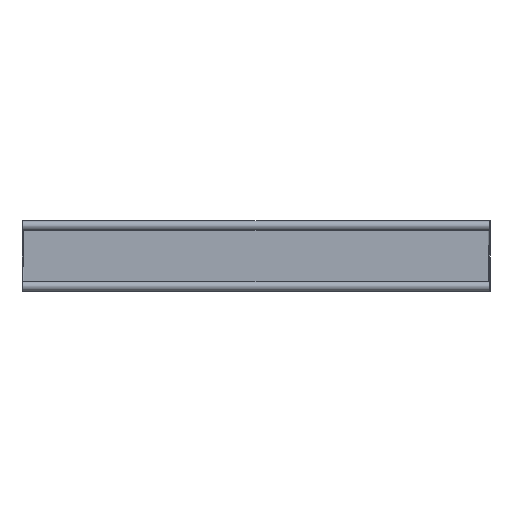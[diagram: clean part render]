
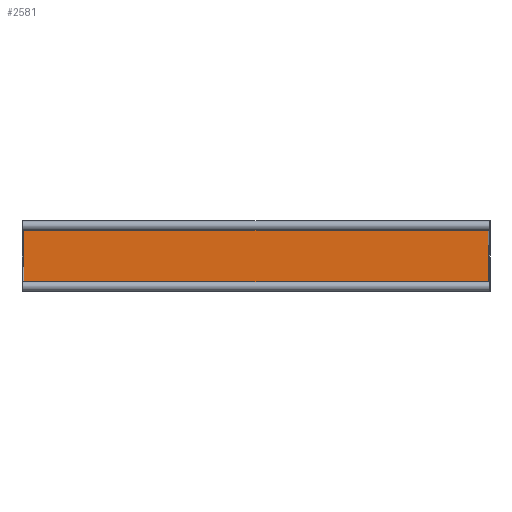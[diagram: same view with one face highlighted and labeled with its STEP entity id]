
A CAD part, front view. The second image highlights one B-rep face of the part: STEP entity #2581.
In plain terms, the highlighted planar face has unit normal (0, -1, 0).
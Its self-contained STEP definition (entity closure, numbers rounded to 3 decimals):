
#56 = AXIS2_PLACEMENT_3D ( 'NONE', #1936, #1193, #8037 ) ;
#336 = EDGE_CURVE ( 'NONE', #877, #8796, #7233, .T. ) ;
#529 = VECTOR ( 'NONE', #5909, 1000. ) ;
#877 = VERTEX_POINT ( 'NONE', #5682 ) ;
#878 = VERTEX_POINT ( 'NONE', #7255 ) ;
#997 = AXIS2_PLACEMENT_3D ( 'NONE', #6462, #7825, #9489 ) ;
#1071 = VERTEX_POINT ( 'NONE', #9300 ) ;
#1134 = DIRECTION ( 'NONE',  ( 0., 0., 1. ) ) ;
#1193 = DIRECTION ( 'NONE',  ( 0., -1., 0. ) ) ;
#1578 = EDGE_CURVE ( 'NONE', #6545, #9532, #9647, .T. ) ;
#1850 = EDGE_CURVE ( 'NONE', #1071, #878, #4536, .T. ) ;
#1936 = CARTESIAN_POINT ( 'NONE',  ( 499., -2., -74. ) ) ;
#2157 = CARTESIAN_POINT ( 'NONE',  ( -496., -2., -74. ) ) ;
#2228 = CARTESIAN_POINT ( 'NONE',  ( 495., -2., 71. ) ) ;
#2473 = AXIS2_PLACEMENT_3D ( 'NONE', #3805, #5348, #7610 ) ;
#2478 = CARTESIAN_POINT ( 'NONE',  ( 496., -2., -74. ) ) ;
#2564 = EDGE_CURVE ( 'NONE', #878, #877, #4290, .T. ) ;
#2581 = ADVANCED_FACE ( 'NONE', ( #2747 ), #4995, .F. ) ;
#2747 = FACE_OUTER_BOUND ( 'NONE', #3176, .T. ) ;
#2841 = ORIENTED_EDGE ( 'NONE', *, *, #9707, .F. ) ;
#2868 = CARTESIAN_POINT ( 'NONE',  ( -495., -2., -71. ) ) ;
#2902 = ORIENTED_EDGE ( 'NONE', *, *, #1578, .F. ) ;
#3176 = EDGE_LOOP ( 'NONE', ( #2902, #5296, #7644, #8269, #9345, #7587, #2841, #9579 ) ) ;
#3246 = CARTESIAN_POINT ( 'NONE',  ( 496., -2., -70. ) ) ;
#3455 = DIRECTION ( 'NONE',  ( 0., -1., 0. ) ) ;
#3597 = DIRECTION ( 'NONE',  ( 1., 0., 0. ) ) ;
#3805 = CARTESIAN_POINT ( 'NONE',  ( 499., -2., 74. ) ) ;
#4290 = CIRCLE ( 'NONE', #5226, 5. ) ;
#4301 = DIRECTION ( 'NONE',  ( 0., -1., 0. ) ) ;
#4536 = LINE ( 'NONE', #2157, #529 ) ;
#4798 = VERTEX_POINT ( 'NONE', #2868 ) ;
#4809 = CARTESIAN_POINT ( 'NONE',  ( -499., -2., 74. ) ) ;
#4903 = EDGE_CURVE ( 'NONE', #4798, #9532, #4960, .T. ) ;
#4960 = LINE ( 'NONE', #7830, #8863 ) ;
#4995 = PLANE ( 'NONE',  #997 ) ;
#5072 = DIRECTION ( 'NONE',  ( 0., 0., 1. ) ) ;
#5226 = AXIS2_PLACEMENT_3D ( 'NONE', #4809, #4301, #5537 ) ;
#5296 = ORIENTED_EDGE ( 'NONE', *, *, #8195, .T. ) ;
#5348 = DIRECTION ( 'NONE',  ( 0., -1., 0. ) ) ;
#5537 = DIRECTION ( 'NONE',  ( 0., 0., 1. ) ) ;
#5682 = CARTESIAN_POINT ( 'NONE',  ( -495., -2., 71. ) ) ;
#5760 = CARTESIAN_POINT ( 'NONE',  ( -499., -2., -74. ) ) ;
#5909 = DIRECTION ( 'NONE',  ( 0., 0., 1. ) ) ;
#6133 = CARTESIAN_POINT ( 'NONE',  ( 496., -2., 70. ) ) ;
#6462 = CARTESIAN_POINT ( 'NONE',  ( -499., -2., -74. ) ) ;
#6545 = VERTEX_POINT ( 'NONE', #3246 ) ;
#7233 = LINE ( 'NONE', #8842, #9632 ) ;
#7255 = CARTESIAN_POINT ( 'NONE',  ( -496., -2., 70. ) ) ;
#7300 = VECTOR ( 'NONE', #1134, 1000. ) ;
#7315 = AXIS2_PLACEMENT_3D ( 'NONE', #5760, #3455, #5072 ) ;
#7494 = CARTESIAN_POINT ( 'NONE',  ( 495., -2., -71. ) ) ;
#7587 = ORIENTED_EDGE ( 'NONE', *, *, #1850, .F. ) ;
#7610 = DIRECTION ( 'NONE',  ( 0., 0., 1. ) ) ;
#7644 = ORIENTED_EDGE ( 'NONE', *, *, #9178, .F. ) ;
#7825 = DIRECTION ( 'NONE',  ( 0., 1., 0. ) ) ;
#7830 = CARTESIAN_POINT ( 'NONE',  ( -499., -2., -71. ) ) ;
#7877 = LINE ( 'NONE', #2478, #7300 ) ;
#8037 = DIRECTION ( 'NONE',  ( 0., 0., 1. ) ) ;
#8195 = EDGE_CURVE ( 'NONE', #6545, #9152, #7877, .T. ) ;
#8269 = ORIENTED_EDGE ( 'NONE', *, *, #336, .F. ) ;
#8600 = CIRCLE ( 'NONE', #2473, 5. ) ;
#8772 = DIRECTION ( 'NONE',  ( 1., 0., 0. ) ) ;
#8796 = VERTEX_POINT ( 'NONE', #2228 ) ;
#8842 = CARTESIAN_POINT ( 'NONE',  ( -499., -2., 71. ) ) ;
#8863 = VECTOR ( 'NONE', #8772, 1000. ) ;
#8915 = CIRCLE ( 'NONE', #7315, 5. ) ;
#9152 = VERTEX_POINT ( 'NONE', #6133 ) ;
#9178 = EDGE_CURVE ( 'NONE', #8796, #9152, #8600, .T. ) ;
#9300 = CARTESIAN_POINT ( 'NONE',  ( -496., -2., -70. ) ) ;
#9345 = ORIENTED_EDGE ( 'NONE', *, *, #2564, .F. ) ;
#9489 = DIRECTION ( 'NONE',  ( 0., 0., 1. ) ) ;
#9532 = VERTEX_POINT ( 'NONE', #7494 ) ;
#9579 = ORIENTED_EDGE ( 'NONE', *, *, #4903, .T. ) ;
#9632 = VECTOR ( 'NONE', #3597, 1000. ) ;
#9647 = CIRCLE ( 'NONE', #56, 5. ) ;
#9707 = EDGE_CURVE ( 'NONE', #4798, #1071, #8915, .T. ) ;
